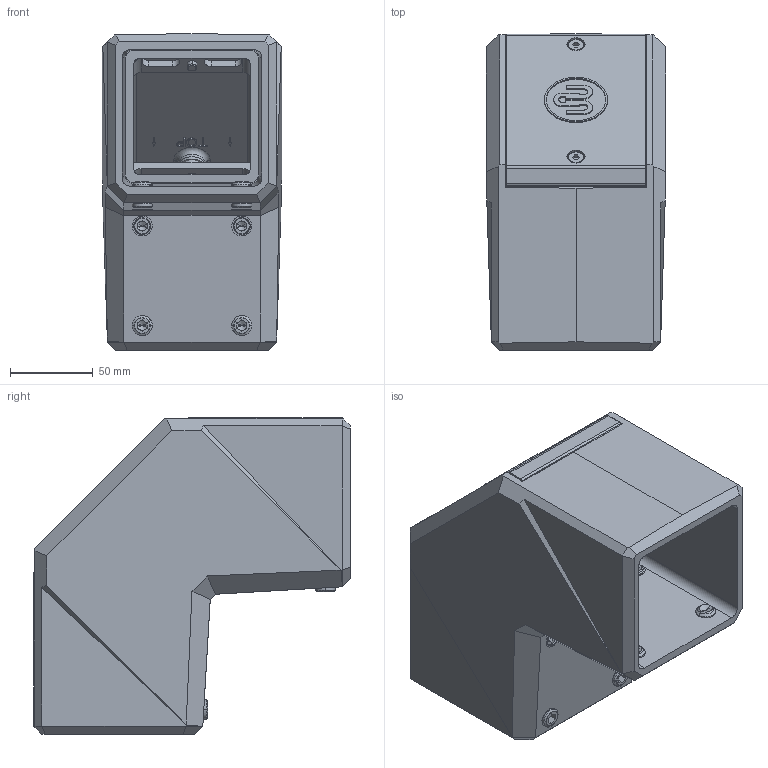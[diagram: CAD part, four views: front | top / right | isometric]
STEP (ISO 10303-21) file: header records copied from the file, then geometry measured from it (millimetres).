
FILE_DESCRIPTION((''),'2;1');
FILE_NAME('1016708000_ASM','2024-09-05T10:30:25',('silke.otte'),(''),'CREO PARAMETRIC BY PTC INC, 2022124','CREO PARAMETRIC BY PTC INC, 2022124','');
FILE_SCHEMA(('AUTOMOTIVE_DESIGN { 1 0 10303 214 1 1 1 1 }'));
Length unit declared in the file: millimetre
Products named in the file (10): 9324141000_AF0; 9620246000_ASM; 9620422000_ASM; 9263034000; 9324049000; 9231551000; 9805174000_ASM; 9261315000; 9231016000; 1016708000_ASM
Assembly tree (18 placements, depth 4):
  1016708000_ASM
    9620422000_ASM
      9620246000_ASM
        9324141000_AF0
    9263034000  x8
    9805174000_ASM
      9324049000
      9231551000
    9261315000  x2
    9231016000  x2
Bounding box: 108.07 x 191 x 191 mm (x, y, z)
Volume: 1022064.3 mm3; surface area: 240312.2 mm2
Topology: 15 solids, 35 shells, 724 faces, 1847 edges, 1158 vertices
Faces by surface type: plane 436, cylinder 198, cone 68, bspline 8, sphere 8, torus 6
Entity records: 28759 total; most frequent: CARTESIAN_POINT 4407, DIRECTION 2733, ORIENTED_EDGE 2508, PRESENTATION_STYLE_ASSIGNMENT 1838, STYLED_ITEM 1838, CURVE_STYLE 1382, EDGE_CURVE 1274, VECTOR 984
